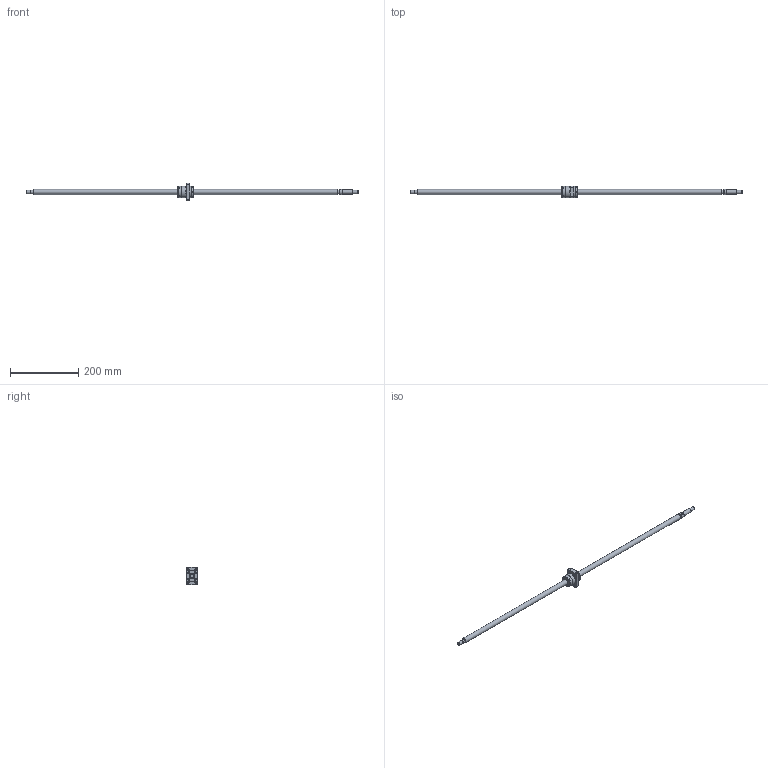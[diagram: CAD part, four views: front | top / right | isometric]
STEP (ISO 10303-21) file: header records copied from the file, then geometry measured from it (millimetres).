
FILE_DESCRIPTION(/* description */ ('STEP AP203'),/* implementation_level */ '2;1');
FILE_NAME(/* name */ 'BNK1510-5.6G0+971LC5Y(466.50)',/* time_stamp */ '2024-07-09T09:24:45+02:00',/* author */ ('License CC BY-ND 4.0'),/* organization */ ('CADENAS'),/* preprocessor_version */ 'ST-DEVELOPER v19.3',/* originating_system */ 'PARTsolutions',/* authorisation */ ' ');
FILE_SCHEMA (('CONFIG_CONTROL_DESIGN'));
Length unit declared in the file: millimetre
Products named in the file (3): BNK1510-5.6G0+971LC5Y(466.50); BNK 1510-5.6G0+971LC5Y Shaft; BNK 1510-5.6G0+971LC5Y0 Nut
Assembly tree (2 placements, depth 2):
  BNK1510-5.6G0+971LC5Y(466.50)
    BNK 1510-5.6G0+971LC5Y Shaft
    BNK 1510-5.6G0+971LC5Y0 Nut
Bounding box: 971 x 34 x 50 mm (x, y, z)
Volume: 202192.5 mm3; surface area: 57046 mm2
Topology: 2 solids, 2 shells, 137 faces, 313 edges, 202 vertices
Faces by surface type: plane 76, cylinder 35, cone 20, torus 6
Full cylindrical faces by diameter (mm): 5.188 x1, 5.5 x8, 9.5 x4, 9.6 x1, 10 x3, 12 x1, 13 x1, 15 x3, 30.6 x1, 33 x2, 34 x2
Entity records: 3729 total; most frequent: CARTESIAN_POINT 677, DIRECTION 632, ORIENTED_EDGE 534, EDGE_CURVE 267, AXIS2_PLACEMENT_3D 249, FACE_BOUND 211, EDGE_LOOP 210, VERTEX_POINT 198
